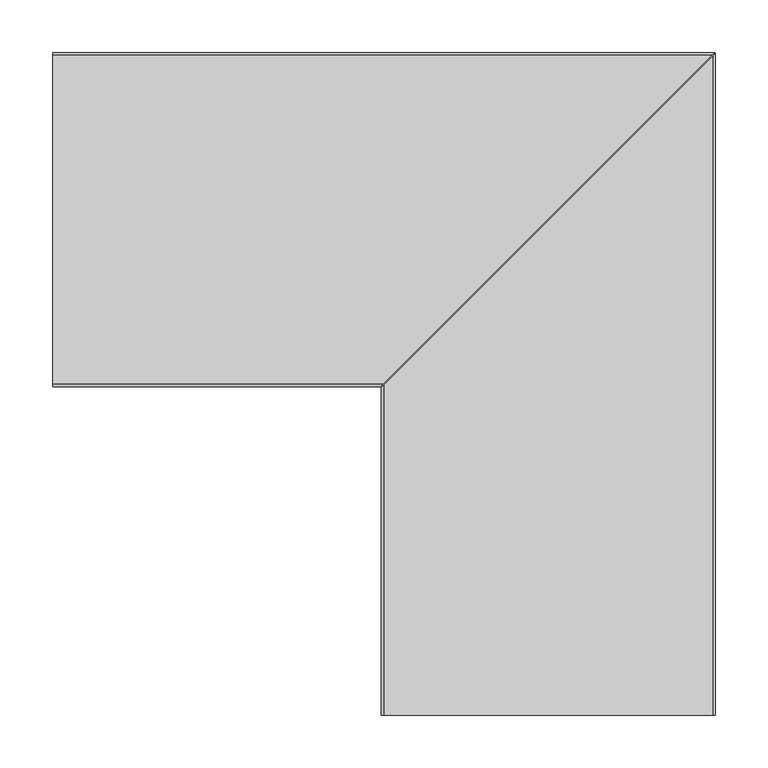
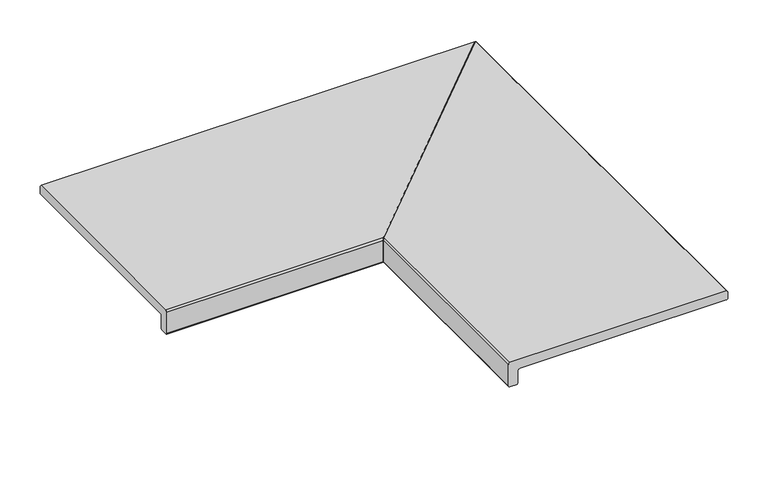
"""IFC4 building model written with IfcOpenShell, lengths in millimetres: proxy geometry, ROSA GRES_E62 : Pieza E62_Tao_Beige_Anti-Slip."""

from ifc_helpers import new_model, si_unit, frame, origin, place, context, project, spatial, polyline, circle_curve, ellipse_curve, source, transform, mapped, element, save
from ifc_brep_helpers import plane_surface, cylinder_surface, revolved_surface, advanced_brep


def generic_models_4be8d311(model_context):
    return source(origin(), model_context, "Body", "AdvancedBrep", [
        advanced_brep(
        [(-625.5203405, -313.4938651, -34.5), (-625.5203405, -313.4938651, -2.5), (-625.5203405, -310.9938651, 0.0), (-625.5203405, 1.0061349, 0.0), (-625.5203405, 3.5061349, -2.5), (-625.5203405, 3.5061349, -11.5), (-625.5203405, 1.0061349, -14.0), (-625.5203405, -296.9938651, -14.0), (-625.5203405, -299.4938651, -16.5), (-625.5203405, -299.4938651, -34.5), (-625.5203405, -301.9938651, -37.0), (-625.5203405, -310.9938651, -37.0), (-314.1999893, -313.4938651, -34.5), (-314.1999893, -313.4938651, -2.5), (-311.6999893, -310.9938651, 0.0), (0.3000107, 1.0061349, 0.0), (2.8000107, 3.5061349, -2.5), (2.8000107, 3.5061349, -11.5), (0.3000107, 1.0061349, -14.0), (-297.6999893, -296.9938651, -14.0), (-300.1999893, -299.4938651, -16.5), (-300.1999893, -299.4938651, -34.5), (-302.6999893, -301.9938651, -37.0), (-311.6999893, -310.9938651, -37.0)],
        [
            (0, 1),
            (1, 2),
            (2, 3),
            (3, 4),
            (4, 5),
            (5, 6, circle_curve(frame((-625.5203405, 1.0061349, -11.5), z_axis=(-1.0, 0.0, 0.0), x_axis=(0.0, 0.0, -1.0)), 2.5)),
            (6, 7),
            (7, 8, circle_curve(frame((-625.5203405, -296.9938651, -16.5), z_axis=(1.0, 0.0, 0.0), x_axis=(0.0, 0.0, -1.0)), 2.5)),
            (8, 9),
            (9, 10, circle_curve(frame((-625.5203405, -301.9938651, -34.5), z_axis=(-1.0, 0.0, 0.0), x_axis=(0.0, 0.0, -1.0)), 2.5)),
            (10, 11),
            (11, 0, circle_curve(frame((-625.5203405, -310.9938651, -34.5), z_axis=(-1.0, 0.0, 0.0), x_axis=(0.0, 0.0, -1.0)), 2.5)),
            (0, 12),
            (12, 13),
            (13, 1),
            (2, 14),
            (14, 15),
            (15, 3),
            (4, 16),
            (16, 17),
            (17, 5),
            (17, 18, ellipse_curve(frame((0.3000107, 1.0061349, -11.5), z_axis=(-0.707106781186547, 0.7071067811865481, 0.0), x_axis=(-0.7071067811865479, -0.7071067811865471, 0.0)), 3.5355339, 2.5)),
            (18, 6),
            (18, 19),
            (19, 7),
            (19, 20, ellipse_curve(frame((-297.6999893, -296.9938651, -16.5), z_axis=(0.707106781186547, -0.7071067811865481, 0.0), x_axis=(0.7071067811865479, 0.7071067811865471, 0.0)), 3.5355339, 2.5)),
            (20, 8),
            (20, 21),
            (21, 9),
            (21, 22, ellipse_curve(frame((-302.6999893, -301.9938651, -34.5), z_axis=(-0.707106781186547, 0.7071067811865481, 0.0), x_axis=(-0.7071067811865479, -0.7071067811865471, 0.0)), 3.5355339, 2.5)),
            (22, 10),
            (11, 23),
            (23, 12, ellipse_curve(frame((-311.6999893, -310.9938651, -34.5), z_axis=(-0.707106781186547, 0.7071067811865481, 0.0), x_axis=(-0.7071067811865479, -0.7071067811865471, 0.0)), 3.5355339, 2.5)),
            (23, 22),
            (16, 15),
            (14, 13),
        ],
        [
            plane_surface(frame((-625.5203405, 0.4796595, 0.0), z_axis=(-1.0, 0.0, 0.0), x_axis=(0.0, 0.0, 1.0))),
            plane_surface(frame((-625.5203405, -313.4938651, -34.5), z_axis=(0.0, -1.0, 0.0), x_axis=(1.0, 0.0, 0.0))),
            plane_surface(frame((-625.5203405, -310.9938651, 0.0), z_axis=(0.0, 0.0, 1.0), x_axis=(1.0, 0.0, 0.0))),
            plane_surface(frame((-625.5203405, 3.5061349, -2.5), z_axis=(0.0, 1.0, 0.0), x_axis=(1.0, 0.0, 0.0))),
            cylinder_surface(frame((-625.5203405, 1.0061349, -11.5), z_axis=(-1.0, 0.0, 0.0), x_axis=(0.0, 0.0, -1.0)), 2.5),
            plane_surface(frame((-625.5203405, 1.0061349, -14.0), z_axis=(0.0, 0.0, -1.0), x_axis=(1.0, 0.0, 0.0))),
            revolved_surface(polyline([(-295.1999893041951, -296.9938651, -19.0), (-625.5203405, -296.9938651, -19.0)]), (-625.5203405, -296.9938651, -16.5), (1.0, 0.0, 0.0)),
            plane_surface(frame((-625.5203405, -299.4938651, -16.5), z_axis=(0.0, 1.0, 0.0), x_axis=(1.0, 0.0, 0.0))),
            cylinder_surface(frame((-625.5203405, -301.9938651, -34.5), z_axis=(-1.0, 0.0, 0.0), x_axis=(0.0, 0.0, -1.0)), 2.5),
            cylinder_surface(frame((-625.5203405, -310.9938651, -34.5), z_axis=(-1.0, 0.0, 0.0), x_axis=(0.0, 0.0, -1.0)), 2.5),
            plane_surface(frame((4.4516618, 5.157786, 20.0), z_axis=(0.707106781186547, -0.7071067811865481, 0.0), x_axis=(0.0, 0.0, -1.0))),
            plane_surface(frame((-625.5203405, -313.4938651, -2.5), z_axis=(0.0, -0.707106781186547, 0.7071067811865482), x_axis=(1.0, 0.0, 0.0))),
            plane_surface(frame((-625.5203405, 1.0061349, 0.0), z_axis=(0.0, 0.707106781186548, 0.707106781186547), x_axis=(1.0, 0.0, 0.0))),
            plane_surface(frame((-625.5203405, -301.9938651, -37.0), z_axis=(0.0, 0.0, -1.0), x_axis=(1.0, 0.0, 0.0))),
        ],
        [
            (0, [[1, 2, 3, 4, 5, 6, 7, 8, 9, 10, 11, 12]]),
            (1, [[-1, 13, 14, 15]]),
            (2, [[-3, 16, 17, 18]]),
            (3, [[-5, 19, 20, 21]]),
            (4, [[-6, -21, 22, 23]]),
            (5, [[-7, -23, 24, 25]]),
            (6, [[-8, -25, 26, 27]]),
            (7, [[-9, -27, 28, 29]]),
            (8, [[-10, -29, 30, 31]]),
            (9, [[-12, 32, 33, -13]]),
            (10, [[-14, -33, 34, -30, -28, -26, -24, -22, -20, 35, -17, 36]]),
            (11, [[-2, -15, -36, -16]]),
            (12, [[-4, -18, -35, -19]]),
            (13, [[-11, -31, -34, -32]]),
        ],
    ),
        advanced_brep(
        [(-313.4938651, -625.5203405, -34.5), (-310.9938651, -625.5203405, -37.0), (-301.9938651, -625.5203405, -37.0), (-299.4938651, -625.5203405, -34.5), (-299.4938651, -625.5203405, -16.5), (-296.9938651, -625.5203405, -14.0), (1.0061349, -625.5203405, -14.0), (3.5061349, -625.5203405, -11.5), (3.5061349, -625.5203405, -2.5), (1.0061349, -625.5203405, 0.0), (-310.9938651, -625.5203405, 0.0), (-313.4938651, -625.5203405, -2.5), (1.0061349, 0.2980456, 0.0), (-310.9938651, -311.7019544, 0.0), (-296.9938651, -297.7019544, -14.0), (1.0061349, 0.2980456, -14.0), (-313.4938651, -314.2019544, -2.5), (-313.4938651, -314.2019544, -34.5), (3.5061349, 2.7980456, -11.5), (3.5061349, 2.7980456, -2.5), (-299.4938651, -300.2019544, -16.5), (-299.4938651, -300.2019544, -34.5), (-301.9938651, -302.7019544, -37.0), (-310.9938651, -311.7019544, -37.0)],
        [
            (0, 1, circle_curve(frame((-310.9938651, -625.5203405, -34.5), z_axis=(0.0, -1.0, 0.0), x_axis=(0.0, 0.0, -1.0)), 2.5)),
            (1, 2),
            (2, 3, circle_curve(frame((-301.9938651, -625.5203405, -34.5), z_axis=(0.0, -1.0, 0.0), x_axis=(0.0, 0.0, -1.0)), 2.5)),
            (3, 4),
            (4, 5, circle_curve(frame((-296.9938651, -625.5203405, -16.5), z_axis=(0.0, 1.0, 0.0), x_axis=(0.0, 0.0, -1.0)), 2.5)),
            (5, 6),
            (6, 7, circle_curve(frame((1.0061349, -625.5203405, -11.5), z_axis=(0.0, -1.0, 0.0), x_axis=(0.0, 0.0, -1.0)), 2.5)),
            (7, 8),
            (8, 9),
            (9, 10),
            (10, 11),
            (11, 0),
            (9, 12),
            (12, 13),
            (13, 10),
            (5, 14),
            (14, 15),
            (15, 6),
            (11, 16),
            (16, 17),
            (17, 0),
            (7, 18),
            (18, 19),
            (19, 8),
            (15, 18, ellipse_curve(frame((1.0061349, 0.2980456, -11.5), z_axis=(0.7071067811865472, -0.7071067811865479, 0.0), x_axis=(0.7071067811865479, 0.7071067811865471, 0.0)), 3.5355339, 2.5)),
            (4, 20),
            (20, 14, ellipse_curve(frame((-296.9938651, -297.7019544, -16.5), z_axis=(-0.7071067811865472, 0.7071067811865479, 0.0), x_axis=(-0.7071067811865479, -0.7071067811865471, 0.0)), 3.5355339, 2.5)),
            (3, 21),
            (21, 20),
            (2, 22),
            (22, 21, ellipse_curve(frame((-301.9938651, -302.7019544, -34.5), z_axis=(0.7071067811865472, -0.7071067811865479, 0.0), x_axis=(0.7071067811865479, 0.7071067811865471, 0.0)), 3.5355339, 2.5)),
            (17, 23, ellipse_curve(frame((-310.9938651, -311.7019544, -34.5), z_axis=(0.7071067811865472, -0.7071067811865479, 0.0), x_axis=(0.7071067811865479, 0.7071067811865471, 0.0)), 3.5355339, 2.5)),
            (23, 1),
            (12, 19),
            (22, 23),
            (16, 13),
        ],
        [
            plane_surface(frame((0.4796595, -625.5203405, 0.0), z_axis=(0.0, -1.0, 0.0), x_axis=(0.0, 0.0, 1.0))),
            plane_surface(frame((-625.5203405, -310.9938651, 0.0), z_axis=(0.0, 0.0, 1.0), x_axis=(1.0, 0.0, 0.0))),
            plane_surface(frame((-625.5203405, 1.0061349, -14.0), z_axis=(0.0, 0.0, -1.0), x_axis=(1.0, 0.0, 0.0))),
            plane_surface(frame((-313.4938651, -313.4938651, -34.5), z_axis=(-1.0, 0.0, 0.0), x_axis=(0.0, -1.0, 0.0))),
            plane_surface(frame((3.5061349, 3.5061349, -2.5), z_axis=(1.0, 0.0, 0.0), x_axis=(0.0, -1.0, 0.0))),
            cylinder_surface(frame((1.0061349, 0.4796595, -11.5), z_axis=(0.0, 1.0, 0.0), x_axis=(0.0, 0.0, -1.0)), 2.5),
            revolved_surface(polyline([(-296.9938651, -625.5203405, -19.0), (-296.9938651, -295.2019544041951, -19.0)]), (-296.9938651, 0.4796595, -16.5), (0.0, -1.0, 0.0)),
            plane_surface(frame((-299.4938651, -299.4938651, -16.5), z_axis=(1.0, 0.0, 0.0), x_axis=(0.0, -1.0, 0.0))),
            cylinder_surface(frame((-301.9938651, 0.4796595, -34.5), z_axis=(0.0, 1.0, 0.0), x_axis=(0.0, 0.0, -1.0)), 2.5),
            cylinder_surface(frame((-310.9938651, 0.4796595, -34.5), z_axis=(0.0, 1.0, 0.0), x_axis=(0.0, 0.0, -1.0)), 2.5),
            plane_surface(frame((-314.6260927, -315.3341821, 20.0), z_axis=(-0.7071067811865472, 0.7071067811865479, 0.0), x_axis=(0.0, 0.0, -1.0))),
            plane_surface(frame((-313.4938651, -313.4938651, -2.5), z_axis=(-0.707106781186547, 0.0, 0.7071067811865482), x_axis=(0.0, -1.0, 0.0))),
            plane_surface(frame((1.0061349, 1.0061349, 0.0), z_axis=(0.707106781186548, 0.0, 0.707106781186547), x_axis=(0.0, -1.0, 0.0))),
            plane_surface(frame((-625.5203405, -301.9938651, -37.0), z_axis=(0.0, 0.0, -1.0), x_axis=(1.0, 0.0, 0.0))),
        ],
        [
            (0, [[1, 2, 3, 4, 5, 6, 7, 8, 9, 10, 11, 12]]),
            (1, [[-10, 13, 14, 15]]),
            (2, [[-6, 16, 17, 18]]),
            (3, [[-12, 19, 20, 21]]),
            (4, [[-8, 22, 23, 24]]),
            (5, [[-7, -18, 25, -22]]),
            (6, [[-5, 26, 27, -16]]),
            (7, [[-4, 28, 29, -26]]),
            (8, [[-3, 30, 31, -28]]),
            (9, [[-1, -21, 32, 33]]),
            (10, [[-14, 34, -23, -25, -17, -27, -29, -31, 35, -32, -20, 36]]),
            (11, [[-11, -15, -36, -19]]),
            (12, [[-9, -24, -34, -13]]),
            (13, [[-2, -33, -35, -30]]),
        ],
    ),
    ])


if __name__ == "__main__":
    model = new_model("IFC4")
    model_context = context("Model", 3, world=origin())
    ifc_project = project(units=[si_unit("LENGTHUNIT", "METRE", prefix="MILLI")], contexts=[model_context])
    site = spatial("IfcSite", under=ifc_project)
    building = spatial("IfcBuilding", under=site)
    placement = place(None, origin())
    generic_models_shape = generic_models_4be8d311(model_context)
    element("IfcBuildingElementProxy", 1, Name="ROSA GRES_E62 : Pieza E62_Tao_Beige_Anti-Slip", ObjectType="ROSA GRES_E62 : Pieza E62_Tao_Beige_Anti-Slip", at=placement, inside=building, context=model_context, shape_type="MappedRepresentation", body=[
        mapped(generic_models_shape, transform((0.0, 0.0, 0.0), x_axis=(1.0, 0.0, 0.0), y_axis=(0.0, 1.0, 0.0), z_axis=(0.0, 0.0, 1.0))),
    ])
    save(model, "model.ifc")
